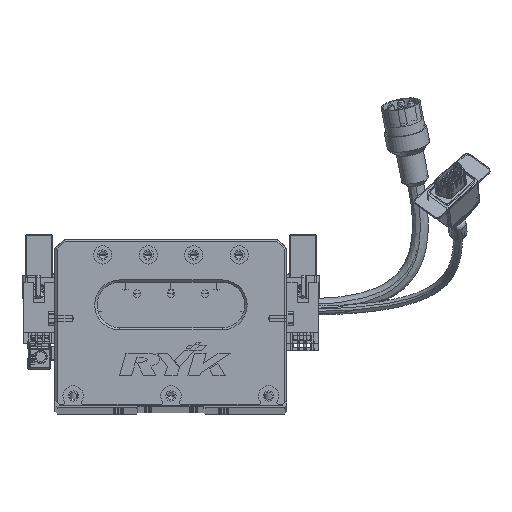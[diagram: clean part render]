
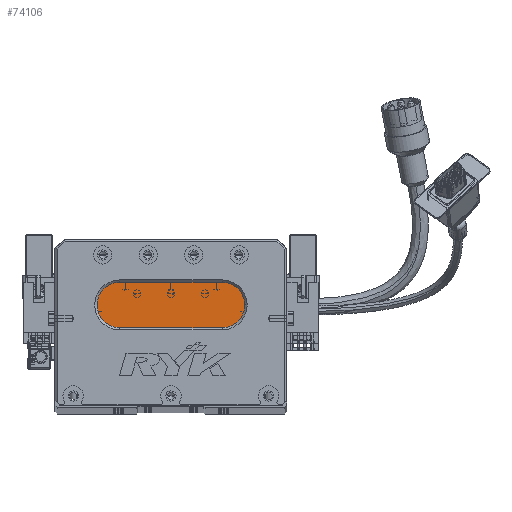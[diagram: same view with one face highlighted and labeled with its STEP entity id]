
A CAD part, top view. The second image highlights one B-rep face of the part: STEP entity #74106.
In plain terms, the highlighted planar face has unit normal (0, 0, 1) as drawn and (0, 0, -1) by its records, which use the part's own axes.
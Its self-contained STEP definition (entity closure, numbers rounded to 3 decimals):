
#1333 = ORIENTED_EDGE ( 'NONE', *, *, #33663, .T. ) ;
#1803 = VECTOR ( 'NONE', #75603, 1000. ) ;
#2970 = CIRCLE ( 'NONE', #62548, 10. ) ;
#5036 = VERTEX_POINT ( 'NONE', #6882 ) ;
#6882 = CARTESIAN_POINT ( 'NONE',  ( 73.5, 34., 13. ) ) ;
#14001 = ORIENTED_EDGE ( 'NONE', *, *, #69894, .T. ) ;
#17996 = DIRECTION ( 'NONE',  ( 0., 0., -1. ) ) ;
#19377 = LINE ( 'NONE', #39622, #1803 ) ;
#20275 = VERTEX_POINT ( 'NONE', #69567 ) ;
#20360 = VECTOR ( 'NONE', #37428, 1000. ) ;
#23685 = DIRECTION ( 'NONE',  ( -1., 0., 0. ) ) ;
#27045 = AXIS2_PLACEMENT_3D ( 'NONE', #53682, #47187, #23685 ) ;
#28322 = DIRECTION ( 'NONE',  ( -1., 0., 0. ) ) ;
#28375 = CIRCLE ( 'NONE', #61027, 10. ) ;
#30810 = VERTEX_POINT ( 'NONE', #59894 ) ;
#32466 = LINE ( 'NONE', #61401, #20360 ) ;
#33663 = EDGE_CURVE ( 'NONE', #20275, #30810, #61720, .T. ) ;
#35185 = CARTESIAN_POINT ( 'NONE',  ( 28.5, 44., 13. ) ) ;
#37283 = FACE_OUTER_BOUND ( 'NONE', #49631, .T. ) ;
#37428 = DIRECTION ( 'NONE',  ( 1., 0., 0. ) ) ;
#39098 = ORIENTED_EDGE ( 'NONE', *, *, #58170, .T. ) ;
#39622 = CARTESIAN_POINT ( 'NONE',  ( 73.5, 34., 13. ) ) ;
#39742 = DIRECTION ( 'NONE',  ( -1., 0., 0. ) ) ;
#41983 = DIRECTION ( 'NONE',  ( -1., 0., 0. ) ) ;
#44970 = ORIENTED_EDGE ( 'NONE', *, *, #50655, .T. ) ;
#46422 = CARTESIAN_POINT ( 'NONE',  ( 28.5, 54., 13. ) ) ;
#46518 = DIRECTION ( 'NONE',  ( 0., 0., -1. ) ) ;
#47187 = DIRECTION ( 'NONE',  ( 0., 0., -1. ) ) ;
#49631 = EDGE_LOOP ( 'NONE', ( #66550, #39098, #1333, #44970, #14001 ) ) ;
#50559 = VERTEX_POINT ( 'NONE', #46422 ) ;
#50655 = EDGE_CURVE ( 'NONE', #30810, #50559, #28375, .T. ) ;
#53682 = CARTESIAN_POINT ( 'NONE',  ( 28.5, 44., 13. ) ) ;
#58023 = CARTESIAN_POINT ( 'NONE',  ( 73.5, 44., 13. ) ) ;
#58170 = EDGE_CURVE ( 'NONE', #5036, #20275, #19377, .T. ) ;
#58353 = DIRECTION ( 'NONE',  ( 0., 0., -1. ) ) ;
#59894 = CARTESIAN_POINT ( 'NONE',  ( 18.5, 44., 13. ) ) ;
#60073 = VERTEX_POINT ( 'NONE', #69966 ) ;
#61027 = AXIS2_PLACEMENT_3D ( 'NONE', #35185, #17996, #41983 ) ;
#61401 = CARTESIAN_POINT ( 'NONE',  ( 73.5, 54., 13. ) ) ;
#61720 = CIRCLE ( 'NONE', #27045, 10. ) ;
#62548 = AXIS2_PLACEMENT_3D ( 'NONE', #76313, #58353, #28322 ) ;
#63992 = PLANE ( 'NONE',  #64051 ) ;
#64051 = AXIS2_PLACEMENT_3D ( 'NONE', #58023, #46518, #39742 ) ;
#66550 = ORIENTED_EDGE ( 'NONE', *, *, #67721, .T. ) ;
#67721 = EDGE_CURVE ( 'NONE', #60073, #5036, #2970, .T. ) ;
#69567 = CARTESIAN_POINT ( 'NONE',  ( 28.5, 34., 13. ) ) ;
#69894 = EDGE_CURVE ( 'NONE', #50559, #60073, #32466, .T. ) ;
#69966 = CARTESIAN_POINT ( 'NONE',  ( 73.5, 54., 13. ) ) ;
#74106 = ADVANCED_FACE ( 'NONE', ( #37283 ), #63992, .T. ) ;
#75603 = DIRECTION ( 'NONE',  ( -1., 0., 0. ) ) ;
#76313 = CARTESIAN_POINT ( 'NONE',  ( 73.5, 44., 13. ) ) ;
